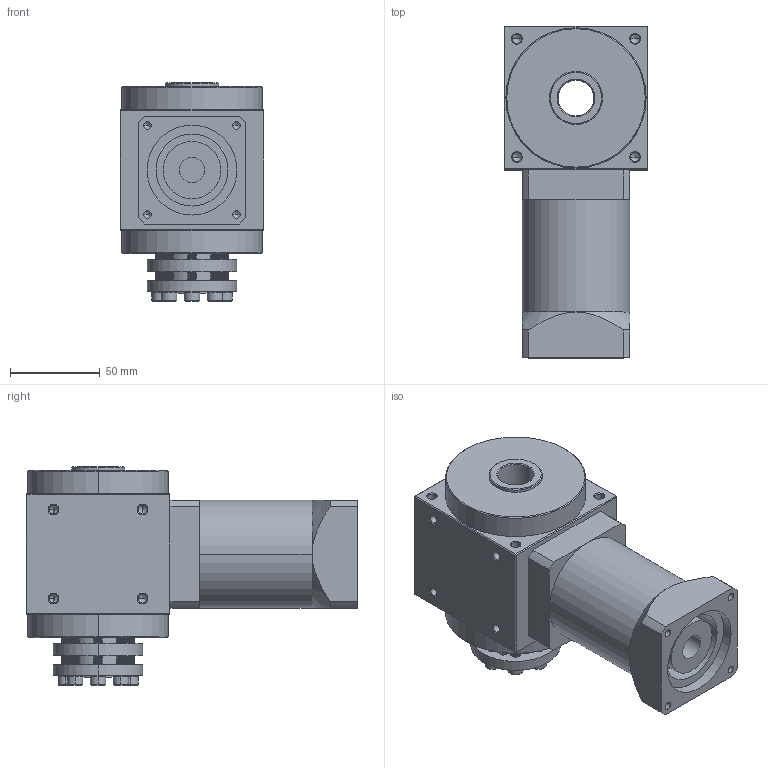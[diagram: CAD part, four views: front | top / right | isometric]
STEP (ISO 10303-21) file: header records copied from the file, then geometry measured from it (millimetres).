
FILE_DESCRIPTION (( 'STEP AP214' ), '1' );
FILE_NAME ('AAW080AS-40-RFHP(12-100) 14-50-70-M5.STEP', '2021-04-23T06:41:12', ( 'Microsoft' ), ( 'Microsoft China' ), 'SwSTEP 2.0', 'SolidWorks 2016', '' );
FILE_SCHEMA (( 'AUTOMOTIVE_DESIGN' ));
Length unit declared in the file: millimetre
Products named in the file (4): 2; AAW080AS-RFHP; M5x25L_1_1_2_1; AAW080AS-40-RFHP(12-100) 14-50-70-M5
Assembly tree (10 placements, depth 2):
  AAW080AS-40-RFHP(12-100) 14-50-70-M5
    M5x25L_1_1_2_1  x8
    AAW080AS-RFHP
    2
Bounding box: 80 x 184.5 x 121.4 mm (x, y, z)
Volume: 844793.3 mm3; surface area: 103563.8 mm2
Topology: 11 solids, 11 shells, 489 faces, 1136 edges, 690 vertices
Faces by surface type: cone 168, cylinder 162, plane 143, bspline 16
Entity records: 16067 total; most frequent: CARTESIAN_POINT 4925, DIRECTION 1675, ORIENTED_EDGE 1438, EDGE_CURVE 719, AXIS2_PLACEMENT_3D 680, VERTEX_POINT 438, EDGE_LOOP 405, CIRCLE 348
